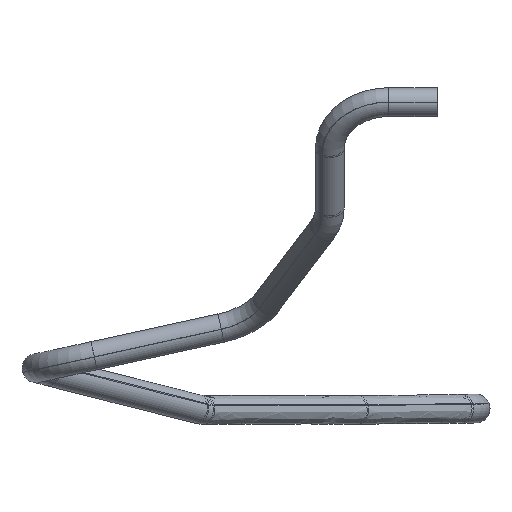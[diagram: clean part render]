
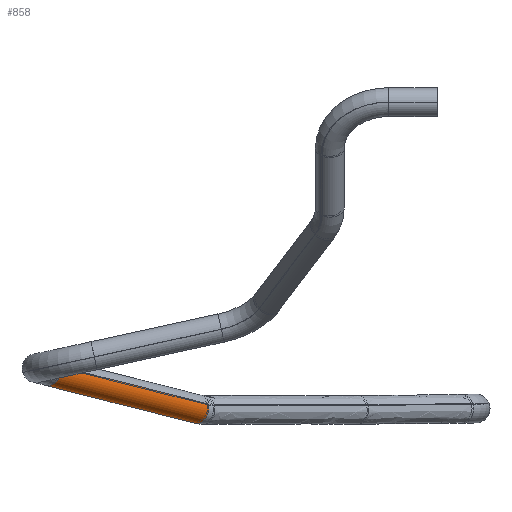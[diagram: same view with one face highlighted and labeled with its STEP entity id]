
A CAD part, front view. The second image highlights one B-rep face of the part: STEP entity #858.
In plain terms, the highlighted cylindrical face has radius 11 mm (diameter 22 mm), a partial arc.
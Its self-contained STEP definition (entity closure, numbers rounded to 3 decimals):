
#328=AXIS2_PLACEMENT_3D('Cylinder Axis2P3D',#325,#326,#327) ;
#837=AXIS2_PLACEMENT_3D('Circle Axis2P3D',#835,#836,$) ;
#849=AXIS2_PLACEMENT_3D('Circle Axis2P3D',#847,#848,$) ;
#303=CARTESIAN_POINT('Vertex',(-13035.311,-488.95,276.951)) ;
#305=CARTESIAN_POINT('Vertex',(-13018.571,-500.952,284.68)) ;
#325=CARTESIAN_POINT('Axis2P3D Location',(-13083.38,-564.456,295.118)) ;
#334=CARTESIAN_POINT('Vertex',(-13148.188,-627.96,305.556)) ;
#336=CARTESIAN_POINT('Vertex',(-13131.448,-639.962,313.284)) ;
#339=CARTESIAN_POINT('Line Origine',(-13075.01,-570.457,298.982)) ;
#344=CARTESIAN_POINT('Line Origine',(-13091.75,-558.455,291.253)) ;
#835=CARTESIAN_POINT('Axis2P3D Location',(-13026.941,-494.951,280.815)) ;
#847=CARTESIAN_POINT('Axis2P3D Location',(-13139.818,-633.961,309.42)) ;
#326=DIRECTION('Axis2P3D Direction',(0.622,0.767,-0.158)) ;
#327=DIRECTION('Axis2P3D XDirection',(-0.761,0.546,-0.351)) ;
#340=DIRECTION('Vector Direction',(0.622,0.767,-0.158)) ;
#345=DIRECTION('Vector Direction',(0.622,0.767,-0.158)) ;
#836=DIRECTION('Axis2P3D Direction',(0.622,0.767,-0.158)) ;
#848=DIRECTION('Axis2P3D Direction',(0.622,0.767,-0.158)) ;
#341=VECTOR('Line Direction',#340,1.) ;
#346=VECTOR('Line Direction',#345,1.) ;
#853=ORIENTED_EDGE('',*,*,#851,.T.) ;
#854=ORIENTED_EDGE('',*,*,#348,.F.) ;
#855=ORIENTED_EDGE('',*,*,#839,.F.) ;
#856=ORIENTED_EDGE('',*,*,#343,.T.) ;
#858=ADVANCED_FACE('( + ) PartBody',(#857),#329,.T.) ;
#838=CIRCLE('generated circle',#837,11.) ;
#850=CIRCLE('generated circle',#849,11.) ;
#329=CYLINDRICAL_SURFACE('generated cylinder',#328,11.) ;
#343=EDGE_CURVE('',#306,#337,#342,.F.) ;
#348=EDGE_CURVE('',#304,#335,#347,.F.) ;
#839=EDGE_CURVE('',#306,#304,#838,.T.) ;
#851=EDGE_CURVE('',#337,#335,#850,.T.) ;
#852=EDGE_LOOP('',(#853,#854,#855,#856)) ;
#857=FACE_OUTER_BOUND('',#852,.T.) ;
#342=LINE('Line',#339,#341) ;
#347=LINE('Line',#344,#346) ;
#304=VERTEX_POINT('',#303) ;
#306=VERTEX_POINT('',#305) ;
#335=VERTEX_POINT('',#334) ;
#337=VERTEX_POINT('',#336) ;
